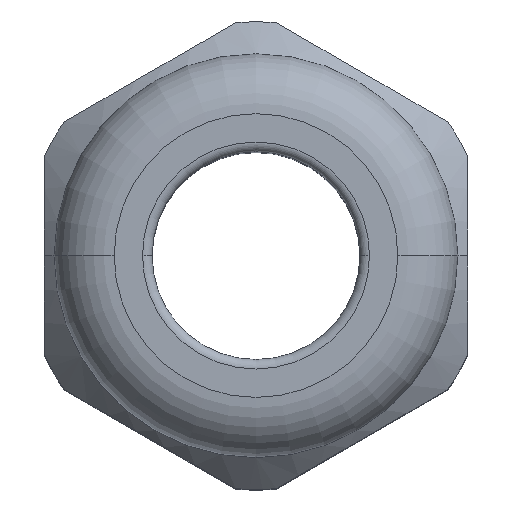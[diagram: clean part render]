
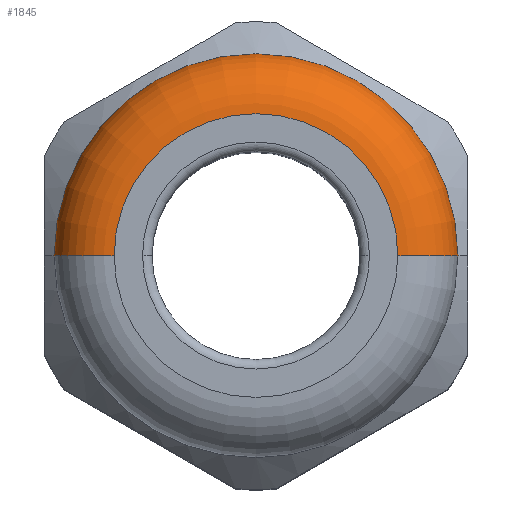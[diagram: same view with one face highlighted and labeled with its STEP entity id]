
A CAD part, top view. The second image highlights one B-rep face of the part: STEP entity #1845.
In plain terms, the highlighted toroidal (fillet/blend) face has major radius 17.75 mm and minor radius 7.5 mm.
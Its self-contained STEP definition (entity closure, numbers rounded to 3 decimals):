
#723 = CIRCLE ( 'NONE', #785, 7.5 ) ;
#781 = CARTESIAN_POINT ( 'NONE',  ( -25.25, 0., 62. ) ) ;
#782 = DIRECTION ( 'NONE',  ( -1., 0., 0. ) ) ;
#783 = DIRECTION ( 'NONE',  ( 0., 1., 0. ) ) ;
#784 = CARTESIAN_POINT ( 'NONE',  ( 17.75, 0., 62. ) ) ;
#785 = AXIS2_PLACEMENT_3D ( 'NONE', #784, #783, #782 ) ;
#803 = CARTESIAN_POINT ( 'NONE',  ( 17.75, 0., 69.5 ) ) ;
#885 = DIRECTION ( 'NONE',  ( -1., 0., 0. ) ) ;
#886 = DIRECTION ( 'NONE',  ( 0., 0., -1. ) ) ;
#887 = CARTESIAN_POINT ( 'NONE',  ( 0., 0., 69.5 ) ) ;
#888 = AXIS2_PLACEMENT_3D ( 'NONE', #887, #886, #885 ) ;
#889 = CIRCLE ( 'NONE', #888, 17.75 ) ;
#929 = TOROIDAL_SURFACE ( 'NONE', #931, 17.75, 7.5 ) ;
#930 = FACE_OUTER_BOUND ( 'NONE', #1861, .T. ) ;
#931 = AXIS2_PLACEMENT_3D ( 'NONE', #954, #953, #952 ) ;
#952 = DIRECTION ( 'NONE',  ( -1., 0., 0. ) ) ;
#953 = DIRECTION ( 'NONE',  ( 0., 0., -1. ) ) ;
#954 = CARTESIAN_POINT ( 'NONE',  ( 0., 0., 62. ) ) ;
#975 = CARTESIAN_POINT ( 'NONE',  ( 0., 0., 62. ) ) ;
#977 = DIRECTION ( 'NONE',  ( 0., 0., -1. ) ) ;
#978 = DIRECTION ( 'NONE',  ( 0., -1., 0. ) ) ;
#979 = CARTESIAN_POINT ( 'NONE',  ( -17.75, 0., 62. ) ) ;
#980 = AXIS2_PLACEMENT_3D ( 'NONE', #979, #978, #977 ) ;
#981 = CIRCLE ( 'NONE', #980, 7.5 ) ;
#1006 = DIRECTION ( 'NONE',  ( 0., 0., -1. ) ) ;
#1007 = AXIS2_PLACEMENT_3D ( 'NONE', #975, #1006, #1032 ) ;
#1008 = CIRCLE ( 'NONE', #1007, 25.25 ) ;
#1032 = DIRECTION ( 'NONE',  ( -1., 0., 0. ) ) ;
#1033 = CARTESIAN_POINT ( 'NONE',  ( 25.25, 0., 62. ) ) ;
#1173 = CARTESIAN_POINT ( 'NONE',  ( -17.75, 0., 69.5 ) ) ;
#1751 = ORIENTED_EDGE ( 'NONE', *, *, #1856, .F. ) ;
#1752 = EDGE_CURVE ( 'NONE', #1771, #1877, #723, .T. ) ;
#1753 = VERTEX_POINT ( 'NONE', #781 ) ;
#1770 = ORIENTED_EDGE ( 'NONE', *, *, #1809, .T. ) ;
#1771 = VERTEX_POINT ( 'NONE', #803 ) ;
#1773 = ORIENTED_EDGE ( 'NONE', *, *, #1752, .T. ) ;
#1809 = EDGE_CURVE ( 'NONE', #1878, #1771, #889, .T. ) ;
#1821 = ORIENTED_EDGE ( 'NONE', *, *, #1853, .F. ) ;
#1845 = ADVANCED_FACE ( 'NONE', ( #930 ), #929, .T. ) ;
#1853 = EDGE_CURVE ( 'NONE', #1753, #1877, #1008, .T. ) ;
#1856 = EDGE_CURVE ( 'NONE', #1878, #1753, #981, .T. ) ;
#1861 = EDGE_LOOP ( 'NONE', ( #1770, #1773, #1821, #1751 ) ) ;
#1877 = VERTEX_POINT ( 'NONE', #1033 ) ;
#1878 = VERTEX_POINT ( 'NONE', #1173 ) ;
